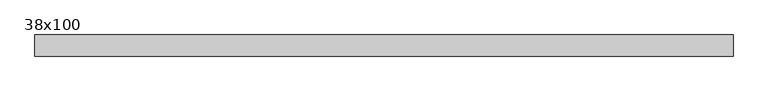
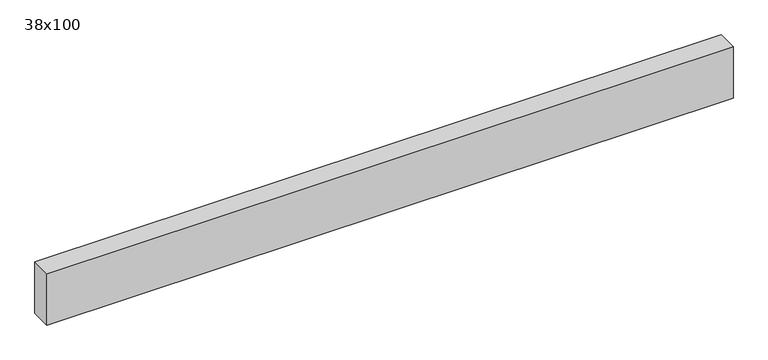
"""IFC4 building model written with IfcOpenShell, lengths in millimetres: beam geometry, Poutre - Bois de construction de dimensions courantes : 38x100."""

import ifcopenshell
import ifcopenshell.guid

model = None  # the IFC model being written
_history = None  # IfcOwnerHistory: only IFC2X3 demands one
_inside = {}  # id of a spatial element -> (the spatial element, [elements in it])
_under = {}  # id of a project, library or spatial element -> (it, [spatial elements below it])
_declared = {}  # id of a project -> (the project, [libraries it declares])
_typed = {}  # id of a type object -> (the type object, [elements of that type])
_made_of = {}  # id of a material, layer set ... -> (it, [elements and type objects made of it])


def new_model(schema):
    """Start an empty IFC model of exactly this schema.

    Asked for "IFC4X3", IfcOpenShell would pick the latest addendum, in which some entities
    have other attributes; the version numbers below select the first issue.
    IFC2X3 requires an IfcOwnerHistory on every rooted entity: one is made here for all.
    """
    global model, _history
    if schema == "IFC4X3":
        model = ifcopenshell.file(schema_version=(4, 3, 0, 0))
    else:
        model = ifcopenshell.file(schema=schema)
    _inside.clear()
    _under.clear()
    _declared.clear()
    _typed.clear()
    _made_of.clear()
    _history = None
    if model.schema == "IFC2X3":
        org = make("IfcOrganization", Name="unknown")
        user = make(
            "IfcPersonAndOrganization",
            ThePerson=make("IfcPerson", FamilyName="unknown"),
            TheOrganization=org,
        )
        app = make(
            "IfcApplication",
            ApplicationDeveloper=org,
            Version="unknown",
            ApplicationFullName="unknown",
            ApplicationIdentifier="unknown",
        )
        _history = make(
            "IfcOwnerHistory",
            OwningUser=user,
            OwningApplication=app,
            ChangeAction="ADDED",
            CreationDate=0,
        )
    return model


def make(cls, **values):
    """One entity of the class cls with the attributes given. An attribute that is None is left unset."""
    return model.create_entity(
        cls, **{name: value for name, value in values.items() if value is not None}
    )


def rooted(cls, **values):
    """An entity with a GlobalId (a new one), such as an element, a storey or a relation."""
    return make(cls, GlobalId=ifcopenshell.guid.new(), OwnerHistory=_history, **values)


def si_unit(unit_type, name, prefix=None):
    """IfcSIUnit, for example si_unit("LENGTHUNIT", "METRE", prefix="MILLI")."""
    return make("IfcSIUnit", UnitType=unit_type, Prefix=prefix, Name=name)


def assignment(units):
    """IfcUnitAssignment: the units of a project."""
    return None if units is None else make("IfcUnitAssignment", Units=units)


def point(xyz):
    """IfcCartesianPoint."""
    return None if xyz is None else make("IfcCartesianPoint", Coordinates=xyz)


def direction(xyz):
    """IfcDirection."""
    return None if xyz is None else make("IfcDirection", DirectionRatios=xyz)


def frame(location, z_axis=None, x_axis=None):
    """IfcAxis2Placement3D, a coordinate frame: its origin and axes. An axis left out is left unset."""
    return make(
        "IfcAxis2Placement3D",
        Location=point(location),
        Axis=direction(z_axis),
        RefDirection=direction(x_axis),
    )


def origin():
    """The frame at (0, 0, 0) with its axes left unset."""
    return frame((0.0, 0.0, 0.0))


def place(relative_to, where):
    """IfcLocalPlacement: puts the frame where relative to a parent placement (None: the world)."""
    return make(
        "IfcLocalPlacement", PlacementRelTo=relative_to, RelativePlacement=where
    )


def context(
    kind, dimensions, precision=None, world=None, true_north=None, identifier=None
):
    """IfcGeometricRepresentationContext, for example the 3D "Model" context."""
    return make(
        "IfcGeometricRepresentationContext",
        ContextIdentifier=identifier,
        ContextType=kind,
        CoordinateSpaceDimension=dimensions,
        Precision=precision,
        WorldCoordinateSystem=world,
        TrueNorth=true_north,
    )


def project(units=None, contexts=None):
    """IfcProject with its units and contexts."""
    return rooted(
        "IfcProject",
        Name="project",
        RepresentationContexts=contexts,
        UnitsInContext=assignment(units),
    )


def spatial(cls, under=None, at=None, **own):
    """A site, building, storey or space (cls), placed at a placement, below another one or the project."""
    s = rooted(cls, ObjectPlacement=at, **own)
    if under is not None:
        _under.setdefault(under.id(), (under, []))[1].append(s)
    return s


def polyline(points):
    """IfcPolyline through the points."""
    return make("IfcPolyline", Points=[point(p) for p in points])


def outline(outer, holes=None, kind="AREA"):
    """IfcArbitraryClosedProfileDef: a profile drawn as a closed curve; with holes, ...WithVoids."""
    if holes is None:
        return make("IfcArbitraryClosedProfileDef", ProfileType=kind, OuterCurve=outer)
    return make(
        "IfcArbitraryProfileDefWithVoids",
        ProfileType=kind,
        OuterCurve=outer,
        InnerCurves=holes,
    )


def extrude(swept, where, along, depth):
    """IfcExtrudedAreaSolid: the profile swept, set in the frame where, extruded along a direction by depth."""
    return make(
        "IfcExtrudedAreaSolid",
        SweptArea=swept,
        Position=where,
        ExtrudedDirection=direction(along),
        Depth=depth,
    )


def shape(context_of_items, identifier, shape_type, items):
    """IfcShapeRepresentation: the items that make up one representation, for example the "Body"."""
    return make(
        "IfcShapeRepresentation",
        ContextOfItems=context_of_items,
        RepresentationIdentifier=identifier,
        RepresentationType=shape_type,
        Items=items,
    )


def source(mapping_origin, context_of_items, identifier, shape_type, items):
    """IfcRepresentationMap: a shape defined once, which mapped items show again and again."""
    return make(
        "IfcRepresentationMap",
        MappingOrigin=mapping_origin,
        MappedRepresentation=shape(context_of_items, identifier, shape_type, items),
    )


def transform(
    local_origin,
    x_axis=None,
    y_axis=None,
    z_axis=None,
    scale=None,
    scale2=None,
    scale3=None,
    uniform=True,
):
    """IfcCartesianTransformationOperator3D, or its non-uniform kind. x_axis, y_axis, z_axis: its Axis1, 2, 3."""
    if uniform:
        return make(
            "IfcCartesianTransformationOperator3D",
            Axis1=direction(x_axis),
            Axis2=direction(y_axis),
            LocalOrigin=point(local_origin),
            Scale=scale,
            Axis3=direction(z_axis),
        )
    return make(
        "IfcCartesianTransformationOperator3DnonUniform",
        Axis1=direction(x_axis),
        Axis2=direction(y_axis),
        LocalOrigin=point(local_origin),
        Scale=scale,
        Axis3=direction(z_axis),
        Scale2=scale2,
        Scale3=scale3,
    )


def mapped(mapping_source, mapping_target):
    """IfcMappedItem: shows the shape of a source again, moved by a transform."""
    return make(
        "IfcMappedItem", MappingSource=mapping_source, MappingTarget=mapping_target
    )


def made_of(thing, what):
    """Note that an element or type object is made of a material, layer set ...; save() writes the relation."""
    if what is not None:
        _made_of.setdefault(what.id(), (what, []))[1].append(thing)
    return thing


def element(
    cls,
    number,
    at=None,
    inside=None,
    cuts=None,
    type_object=None,
    material=None,
    context=None,
    identifier="Body",
    shape_type=None,
    held_by="IfcProductDefinitionShape",
    body=None,
    shapes=None,
    **own,
):
    """One element of the class cls, such as IfcWall. Its Tag is "e" and its number.

    at: its placement. inside: the storey or other place that contains it. cuts: it is an
    opening in that element (IfcRelVoidsElement). A single representation is given by context,
    identifier, shape_type and body (its items); several are given by shapes. held_by: the class
    of the entity that holds the representations. save() writes the other relations.
    """
    e = rooted(cls, Tag="e%d" % number, ObjectPlacement=at, **own)
    if body is not None:
        shapes = [shape(context, identifier, shape_type, body)]
    if shapes is not None:
        e.Representation = make(held_by, Representations=shapes)
    if inside is not None:
        _inside.setdefault(inside.id(), (inside, []))[1].append(e)
    if cuts is not None:
        rooted(
            "IfcRelVoidsElement", RelatingBuildingElement=cuts, RelatedOpeningElement=e
        )
    if type_object is not None:
        _typed.setdefault(type_object.id(), (type_object, []))[1].append(e)
    return made_of(e, material)


def aggregate(whole, parts):
    """IfcRelAggregates: a whole, such as a stair, and the parts it consists of."""
    return rooted("IfcRelAggregates", RelatingObject=whole, RelatedObjects=parts)


def save(model, path):
    """Write the relations noted so far, then the file.

    IfcRelAggregates (storeys below a building ...), IfcRelContainedInSpatialStructure (elements
    in a storey), IfcRelDefinesByType, IfcRelAssociatesMaterial and IfcRelDeclares: one each for
    every whole, place, type object, material and project.
    """
    for whole, parts in _under.values():
        aggregate(whole, parts)
    for where, things in _inside.values():
        rooted(
            "IfcRelContainedInSpatialStructure",
            RelatedElements=things,
            RelatingStructure=where,
        )
    for kind, things in _typed.values():
        rooted("IfcRelDefinesByType", RelatedObjects=things, RelatingType=kind)
    for what, things in _made_of.values():
        rooted("IfcRelAssociatesMaterial", RelatedObjects=things, RelatingMaterial=what)
    for by, libraries in _declared.values():
        rooted("IfcRelDeclares", RelatingContext=by, RelatedDefinitions=libraries)
    model.write(path)


def beam_38x100_5910f9fe(model_context):
    return source(origin(), model_context, "Body", "SweptSolid", [
        extrude(outline(polyline([(608.5, 19.05), (608.5, -19.05), (-652.5, -19.05), (-652.5, 19.05), (608.5, 19.05)])), frame((0.0, 0.0, -50.0), z_axis=(0.0, 0.0, 1.0), x_axis=(1.0, 0.0, 0.0)), (0.0, 0.0, 1.0), 100.0),
    ])


if __name__ == "__main__":
    model = new_model("IFC4")
    model_context = context("Model", 3, world=origin())
    ifc_project = project(units=[si_unit("LENGTHUNIT", "METRE", prefix="MILLI")], contexts=[model_context])
    site = spatial("IfcSite", under=ifc_project)
    building = spatial("IfcBuilding", under=site)
    placement = place(None, origin())
    beam_38x100_shape = beam_38x100_5910f9fe(model_context)
    element("IfcBeam", 1, ObjectType="Poutre - Bois de construction de dimensions courantes : 38x100", at=placement, inside=building, context=model_context, shape_type="MappedRepresentation", body=[
        mapped(beam_38x100_shape, transform((0.0, 0.0, 0.0), x_axis=(1.0, 0.0, 0.0), y_axis=(0.0, 1.0, 0.0), z_axis=(0.0, 0.0, 1.0))),
    ])
    save(model, "model.ifc")
